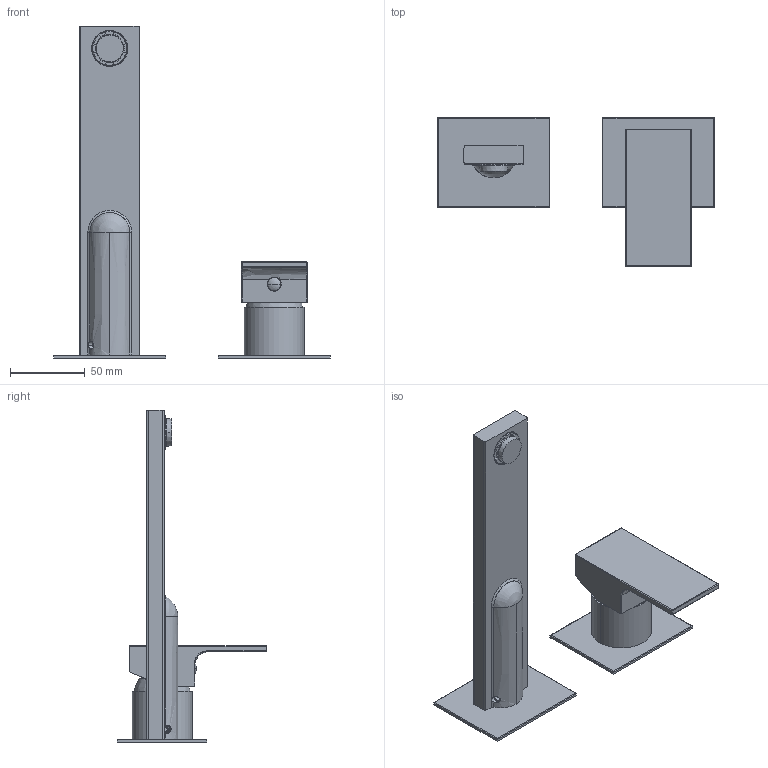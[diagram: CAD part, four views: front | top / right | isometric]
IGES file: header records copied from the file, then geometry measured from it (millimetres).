
Start section:  PTC IGES file: 35547A.igs
Global section: file name: 35547A.igs; native system: Creo Parametric by PTC Inc.; preprocessor: 2022014; author: carloff; organization: Unknown; date: 20260203.150206; units: millimetre
Bounding box: 185 x 100 x 222 mm (x, y, z)
Surface area: 98263.5 mm2 (no closed solid volume)
Topology: 0 solids, 0 shells, 914 faces, 5165 edges, 5156 vertices
Faces by surface type: revolution 529, bspline 385
